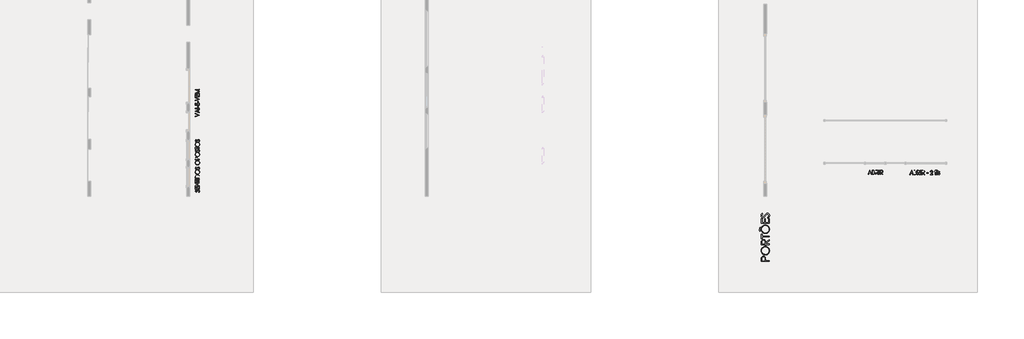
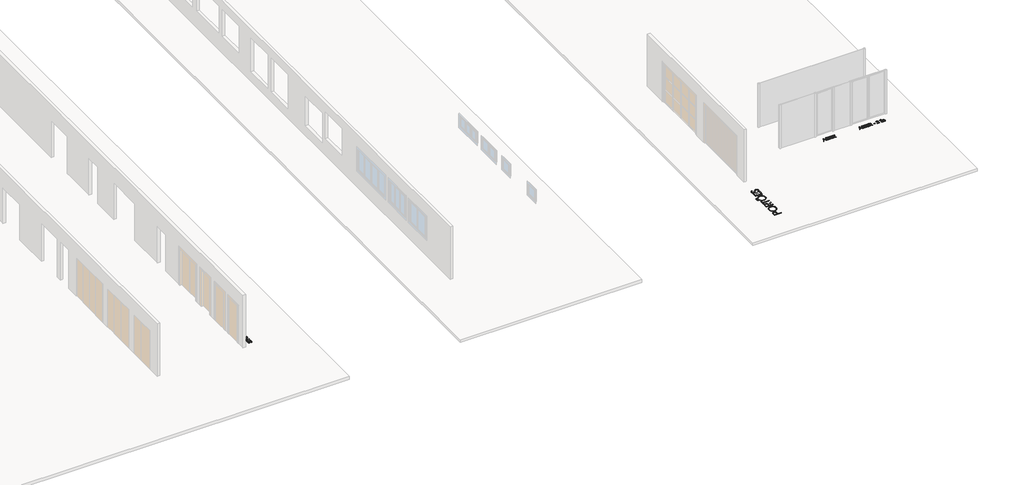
# One storey, part 12 of 15: 5 proxies.
"""IFC4 building model written with IfcOpenShell, lengths in millimetres."""

from ifc_helpers import new_model, si_unit, origin, origin_with_axes, place, context, project, spatial, polyline, outline, extrude, element, save

model = new_model("IFC4")

# Units and contexts
model_context = context("Model", 3, world=origin())
ifc_project = project(units=[si_unit("LENGTHUNIT", "METRE", prefix="MILLI")], contexts=[model_context])

# Site, building, storey
site = spatial("IfcSite", under=ifc_project)
building = spatial("IfcBuilding", under=site)
storey = spatial("IfcBuildingStorey", under=building, Name="TÉRREO", Elevation=0.0)

# Proxies
placement = place(None, origin())
element("IfcBuildingElementProxy", 1, Name="600mm Arial", ObjectType="600mm Arial", at=placement, inside=storey, context=model_context, shape_type="SweptSolid", body=[
    extrude(outline(polyline([(13627.4214669, -12239.1506678), (13617.7473598, -12223.043525), (13641.3187883, -12203.7689714), (13647.2116455, -12193.0820294), (13649.1759312, -12181.6953107), (13644.6089669, -12162.887275), (13632.3812883, -12149.481025), (13616.1268241, -12144.8649536), (13606.4158866, -12146.5468732), (13596.9259312, -12151.5926321), (13583.0040562, -12164.6551321), (13566.4795026, -12185.3783464), (13540.6000383, -12216.1194178), (13527.2060651, -12223.9642839), (13512.7562883, -12226.5792393), (13501.3941232, -12225.0691946), (13491.0754848, -12220.5390607), (13482.3221366, -12213.2712036), (13475.6558419, -12203.5479893), (13470.0330741, -12179.7801321), (13475.5821812, -12154.2689714), (13483.4638776, -12142.059708), (13496.0107526, -12129.1506678), (13507.7473598, -12144.6194178), (13490.0196812, -12163.574775), (13485.7473598, -12180.6640607), (13487.5090785, -12191.5044625), (13492.7942348, -12200.1595964), (13500.6697928, -12205.8314714), (13510.2027169, -12207.7220964), (13522.3321812, -12205.0703107), (13535.1491455, -12195.3962036), (13554.3991455, -12170.2042393), (13571.3472482, -12148.8426321), (13586.3433419, -12135.4363821), (13600.3941232, -12128.3649536), (13614.5062883, -12126.0078107), (13633.5107526, -12129.9977661), (13649.8634312, -12141.9676321), (13661.1335205, -12159.6584803), (13664.8902169, -12180.8113821), (13662.735641, -12197.5814714), (13656.2719133, -12212.731025), (13644.75015, -12226.5055786), (13627.4214669, -12239.1506678)])), origin_with_axes(), (0.0, 0.0, 1.0), 10.0),
    extrude(outline(polyline([(13473.1759312, -12088.293525), (13473.1759312, -11978.293525), (13488.8902169, -11978.293525), (13488.8902169, -12069.4363821), (13551.7473598, -12069.4363821), (13551.7473598, -11978.293525), (13567.4616455, -11978.293525), (13567.4616455, -12069.4363821), (13646.0330741, -12069.4363821), (13646.0330741, -11978.293525), (13661.7473598, -11978.293525), (13661.7473598, -12088.293525), (13473.1759312, -12088.293525)])), origin_with_axes(), (0.0, 0.0, 1.0), 10.0),
    extrude(outline(polyline([(13661.7473598, -11946.8649536), (13473.1759312, -11946.8649536), (13473.1759312, -11942.887275), (13618.1402169, -11814.8649536), (13473.1759312, -11814.8649536), (13473.1759312, -11796.0078107), (13661.7473598, -11796.0078107), (13661.7473598, -11800.2801321), (13517.0777169, -11928.0078107), (13661.7473598, -11928.0078107), (13661.7473598, -11946.8649536)])), origin_with_axes(), (0.0, 0.0, 1.0), 10.0),
    extrude(outline(polyline([(13488.8902169, -11770.8649536), (13473.1759312, -11770.8649536), (13473.1759312, -11670.293525), (13488.8902169, -11670.293525), (13488.8902169, -11711.1506678), (13661.7473598, -11711.1506678), (13661.7473598, -11730.0078107), (13488.8902169, -11730.0078107), (13488.8902169, -11770.8649536)])), origin_with_axes(), (0.0, 0.0, 1.0), 10.0),
    extrude(outline(polyline([(13473.1759312, -11642.0078107), (13473.1759312, -11623.1506678), (13661.7473598, -11623.1506678), (13661.7473598, -11642.0078107), (13473.1759312, -11642.0078107)])), origin_with_axes(), (0.0, 0.0, 1.0), 10.0),
    extrude(outline(polyline([(13661.7473598, -11579.1506678), (13473.1759312, -11579.1506678), (13473.1759312, -11539.7176321), (13474.8701276, -11502.8627214), (13479.9527169, -11477.7444178), (13493.1011544, -11453.0742169), (13513.2964669, -11434.4564714), (13539.2864223, -11422.762833), (13569.8187883, -11418.8649536), (13596.453275, -11421.9525652), (13619.6870919, -11431.2154), (13638.4030517, -11445.4135027), (13651.4839669, -11463.3069178), (13659.1815116, -11487.0011143), (13661.7473598, -11518.6015607), (13661.7473598, -11579.1506678)]), holes=[polyline([(13646.0330741, -11560.293525), (13646.0330741, -11538.3426321), (13644.7808419, -11504.9866053), (13641.0241455, -11483.6863821), (13631.0062883, -11464.55915), (13615.2920026, -11449.9988821), (13594.6670026, -11440.7912928), (13569.9170026, -11437.7220964), (13543.8226946, -11441.0491053), (13521.8165562, -11451.0301321), (13504.9912214, -11466.9531232), (13494.4393241, -11488.106025), (13490.2774937, -11511.7020071), (13488.8902169, -11546.8381678), (13488.8902169, -11560.293525), (13646.0330741, -11560.293525)])]), origin_with_axes(), (0.0, 0.0, 1.0), 10.0),
    extrude(outline(polyline([(13470.0330741, -11289.6640607), (13471.790189, -11269.1756399), (13477.0615339, -11250.4335919), (13485.8471087, -11233.4379167), (13498.1469133, -11218.1886143), (13513.0187046, -11205.6095127), (13529.5202392, -11196.6244402), (13547.6515171, -11191.2333966), (13567.4125383, -11189.4363821), (13586.9970808, -11191.2303274), (13605.0408866, -11196.6121634), (13621.5439558, -11205.5818899), (13636.5062883, -11218.1395071), (13648.9242571, -11233.2752493), (13657.7942348, -11249.9793509), (13663.1162214, -11268.2518118), (13664.8902169, -11288.0926321), (13663.1238944, -11308.1943341), (13657.8249267, -11326.6601544), (13648.993314, -11343.4900931), (13636.6290562, -11358.68415), (13621.7603341, -11371.2632515), (13605.4153285, -11380.2483241), (13587.5940395, -11385.6393676), (13568.2964669, -11387.4363821), (13542.5152169, -11384.1584803), (13518.6982526, -11374.324775), (13498.3433419, -11358.8376098), (13482.9482526, -11338.5993286), (13473.2618687, -11315.0585919), (13470.0330741, -11289.6640607)]), holes=[polyline([(13485.7473598, -11288.8292393), (13488.5096366, -11309.2946411), (13496.7964669, -11328.6551321), (13509.7607526, -11345.4006678), (13526.5553955, -11358.0212036), (13546.3332973, -11365.9397303), (13568.2473598, -11368.5792393), (13599.6329625, -11362.7354893), (13625.7272705, -11345.2042393), (13643.313766, -11319.4229893), (13649.1759312, -11288.8292393), (13646.4811767, -11267.6088152), (13638.3969133, -11248.0457571), (13625.6351946, -11231.3677437), (13608.9080741, -11218.8024536), (13589.1547258, -11210.9207571), (13567.3143241, -11208.293525), (13545.6703508, -11210.9207571), (13526.2116455, -11218.8024536), (13509.6748151, -11231.4475428), (13496.7964669, -11248.3649536), (13488.5096366, -11268.0078107), (13485.7473598, -11288.8292393)])]), origin_with_axes(), (0.0, 0.0, 1.0), 10.0),
    extrude(outline(polyline([(13627.4214669, -11170.5792393), (13617.7473598, -11154.4720964), (13641.3187883, -11135.1975428), (13647.2116455, -11124.5106009), (13649.1759312, -11113.1238821), (13644.6089669, -11094.3158464), (13632.3812883, -11080.9095964), (13616.1268241, -11076.293525), (13606.4158866, -11077.9754446), (13596.9259312, -11083.0212036), (13583.0040562, -11096.0837036), (13566.4795026, -11116.8069178), (13540.6000383, -11147.5479893), (13527.2060651, -11155.3928553), (13512.7562883, -11158.0078107), (13501.3941232, -11156.4977661), (13491.0754848, -11151.9676321), (13482.3221366, -11144.699775), (13475.6558419, -11134.9765607), (13470.0330741, -11111.2087036), (13475.5821812, -11085.6975428), (13483.4638776, -11073.4882794), (13496.0107526, -11060.5792393), (13507.7473598, -11076.0479893), (13490.0196812, -11095.0033464), (13485.7473598, -11112.0926321), (13487.5090785, -11122.9330339), (13492.7942348, -11131.5881678), (13500.6697928, -11137.2600428), (13510.2027169, -11139.1506678), (13522.3321812, -11136.4988821), (13535.1491455, -11126.824775), (13554.3991455, -11101.6328107), (13571.3472482, -11080.2712036), (13586.3433419, -11066.8649536), (13600.3941232, -11059.793525), (13614.5062883, -11057.4363821), (13633.5107526, -11061.4263375), (13649.8634312, -11073.3962036), (13661.1335205, -11091.0870518), (13664.8902169, -11112.2399536), (13662.735641, -11129.0100428), (13656.2719133, -11144.1595964), (13644.75015, -11157.93415), (13627.4214669, -11170.5792393)])), origin_with_axes(), (0.0, 0.0, 1.0), 10.0),
    extrude(outline(polyline([(13470.0330741, -10855.949775), (13471.790189, -10835.4613542), (13477.0615339, -10816.7193062), (13485.8471087, -10799.723631), (13498.1469133, -10784.4743286), (13513.0187046, -10771.895227), (13529.5202392, -10762.9101544), (13547.6515171, -10757.5191109), (13567.4125383, -10755.7220964), (13586.9970808, -10757.5160417), (13605.0408866, -10762.8978777), (13621.5439558, -10771.8676042), (13636.5062883, -10784.4252214), (13648.9242571, -10799.5609636), (13657.7942348, -10816.2650652), (13663.1162214, -10834.5375261), (13664.8902169, -10854.3783464), (13663.1238944, -10874.4800484), (13657.8249267, -10892.9458687), (13648.993314, -10909.7758073), (13636.6290562, -10924.9698643), (13621.7603341, -10937.5489658), (13605.4153285, -10946.5340384), (13587.5940395, -10951.9250819), (13568.2964669, -10953.7220964), (13542.5152169, -10950.4441946), (13518.6982526, -10940.6104893), (13498.3433419, -10925.1233241), (13482.9482526, -10904.8850428), (13473.2618687, -10881.3443062), (13470.0330741, -10855.949775)]), holes=[polyline([(13485.7473598, -10855.1149536), (13488.5096366, -10875.5803553), (13496.7964669, -10894.9408464), (13509.7607526, -10911.6863821), (13526.5553955, -10924.3069178), (13546.3332973, -10932.2254446), (13568.2473598, -10934.8649536), (13599.6329625, -10929.0212036), (13625.7272705, -10911.4899536), (13643.313766, -10885.7087036), (13649.1759312, -10855.1149536), (13646.4811767, -10833.8945294), (13638.3969133, -10814.3314714), (13625.6351946, -10797.653458), (13608.9080741, -10785.0881678), (13589.1547258, -10777.2064714), (13567.3143241, -10774.5792393), (13545.6703508, -10777.2064714), (13526.2116455, -10785.0881678), (13509.6748151, -10797.7332571), (13496.7964669, -10814.6506678), (13488.5096366, -10834.293525), (13485.7473598, -10855.1149536)])]), origin_with_axes(), (0.0, 0.0, 1.0), 10.0),
    extrude(outline(polyline([(13473.1759312, -10718.0078107), (13473.1759312, -10679.949775), (13475.8768241, -10635.7533464), (13481.7696812, -10620.8554669), (13491.6893241, -10608.9654), (13505.156958, -10601.1757794), (13521.6937883, -10598.5792393), (13538.3104178, -10601.1205339), (13551.7228062, -10608.7444178), (13561.5994803, -10620.824775), (13567.6089669, -10636.7354893), (13570.6045026, -10685.449775), (13570.6045026, -10699.1506678), (13661.7473598, -10699.1506678), (13661.7473598, -10718.0078107), (13473.1759312, -10718.0078107)]), holes=[polyline([(13488.8902169, -10699.1506678), (13554.8902169, -10699.1506678), (13555.2339669, -10666.3470964), (13551.6000383, -10637.2020071), (13539.8634312, -10622.7154), (13521.7428955, -10617.4363821), (13503.8678955, -10622.7154), (13492.3277169, -10636.6127214), (13488.8902169, -10664.8738821), (13488.8902169, -10699.1506678)])]), origin_with_axes(), (0.0, 0.0, 1.0), 10.0),
    extrude(outline(polyline([(13470.0330741, -10469.3783464), (13471.790189, -10448.8899257), (13477.0615339, -10430.1478777), (13485.8471087, -10413.1522024), (13498.1469133, -10397.9029), (13513.0187046, -10385.3237984), (13529.5202392, -10376.3387259), (13547.6515171, -10370.9476823), (13567.4125383, -10369.1506678), (13586.9970808, -10370.9446132), (13605.0408866, -10376.3264491), (13621.5439558, -10385.2961757), (13636.5062883, -10397.8537928), (13648.9242571, -10412.989535), (13657.7942348, -10429.6936366), (13663.1162214, -10447.9660975), (13664.8902169, -10467.8069178), (13663.1238944, -10487.9086198), (13657.8249267, -10506.3744402), (13648.993314, -10523.2043788), (13636.6290562, -10538.3984357), (13621.7603341, -10550.9775373), (13605.4153285, -10559.9626098), (13587.5940395, -10565.3536533), (13568.2964669, -10567.1506678), (13542.5152169, -10563.8727661), (13518.6982526, -10554.0390607), (13498.3433419, -10538.5518955), (13482.9482526, -10518.3136143), (13473.2618687, -10494.7728777), (13470.0330741, -10469.3783464)]), holes=[polyline([(13485.7473598, -10468.543525), (13488.5096366, -10489.0089268), (13496.7964669, -10508.3694178), (13509.7607526, -10525.1149536), (13526.5553955, -10537.7354893), (13546.3332973, -10545.6540161), (13568.2473598, -10548.293525), (13599.6329625, -10542.449775), (13625.7272705, -10524.918525), (13643.313766, -10499.137275), (13649.1759312, -10468.543525), (13646.4811767, -10447.3231009), (13638.3969133, -10427.7600428), (13625.6351946, -10411.0820294), (13608.9080741, -10398.5167393), (13589.1547258, -10390.6350428), (13567.3143241, -10388.0078107), (13545.6703508, -10390.6350428), (13526.2116455, -10398.5167393), (13509.6748151, -10411.1618286), (13496.7964669, -10428.0792393), (13488.5096366, -10447.7220964), (13485.7473598, -10468.543525)])]), origin_with_axes(), (0.0, 0.0, 1.0), 10.0),
    extrude(outline(polyline([(13627.4214669, -10350.293525), (13617.7473598, -10334.1863821), (13641.3187883, -10314.9118286), (13647.2116455, -10304.2248866), (13649.1759312, -10292.8381678), (13644.6089669, -10274.0301321), (13632.3812883, -10260.6238821), (13616.1268241, -10256.0078107), (13606.4158866, -10257.6897303), (13596.9259312, -10262.7354893), (13583.0040562, -10275.7979893), (13566.4795026, -10296.5212036), (13540.6000383, -10327.262275), (13527.2060651, -10335.1071411), (13512.7562883, -10337.7220964), (13501.3941232, -10336.2120518), (13491.0754848, -10331.6819178), (13482.3221366, -10324.4140607), (13475.6558419, -10314.6908464), (13470.0330741, -10290.9229893), (13475.5821812, -10265.4118286), (13483.4638776, -10253.2025652), (13496.0107526, -10240.293525), (13507.7473598, -10255.762275), (13490.0196812, -10274.7176321), (13485.7473598, -10291.8069178), (13487.5090785, -10302.6473196), (13492.7942348, -10311.3024536), (13500.6697928, -10316.9743286), (13510.2027169, -10318.8649536), (13522.3321812, -10316.2131678), (13535.1491455, -10306.5390607), (13554.3991455, -10281.3470964), (13571.3472482, -10259.9854893), (13586.3433419, -10246.5792393), (13600.3941232, -10239.5078107), (13614.5062883, -10237.1506678), (13633.5107526, -10241.1406232), (13649.8634312, -10253.1104893), (13661.1335205, -10270.8013375), (13664.8902169, -10291.9542393), (13662.735641, -10308.7243286), (13656.2719133, -10323.8738821), (13644.75015, -10337.6484357), (13627.4214669, -10350.293525)])), origin_with_axes(), (0.0, 0.0, 1.0), 10.0),
    extrude(outline(polyline([(13488.8902169, -10218.293525), (13473.1759312, -10218.293525), (13473.1759312, -10117.7220964), (13488.8902169, -10117.7220964), (13488.8902169, -10158.5792393), (13661.7473598, -10158.5792393), (13661.7473598, -10177.4363821), (13488.8902169, -10177.4363821), (13488.8902169, -10218.293525)])), origin_with_axes(), (0.0, 0.0, 1.0), 10.0),
    extrude(outline(polyline([(13470.0330741, -9997.949775), (13471.790189, -9977.4613542), (13477.0615339, -9958.7193062), (13485.8471087, -9941.723631), (13498.1469133, -9926.4743286), (13513.0187046, -9913.895227), (13529.5202392, -9904.9101544), (13547.6515171, -9899.5191109), (13567.4125383, -9897.7220964), (13586.9970808, -9899.5160417), (13605.0408866, -9904.8978777), (13621.5439558, -9913.8676042), (13636.5062883, -9926.4252214), (13648.9242571, -9941.5609636), (13657.7942348, -9958.2650652), (13663.1162214, -9976.5375261), (13664.8902169, -9996.3783464), (13663.1238944, -10016.4800484), (13657.8249267, -10034.9458687), (13648.993314, -10051.7758073), (13636.6290562, -10066.9698643), (13621.7603341, -10079.5489658), (13605.4153285, -10088.5340384), (13587.5940395, -10093.9250819), (13568.2964669, -10095.7220964), (13542.5152169, -10092.4441946), (13518.6982526, -10082.6104893), (13498.3433419, -10067.1233241), (13482.9482526, -10046.8850428), (13473.2618687, -10023.3443062), (13470.0330741, -9997.949775)]), holes=[polyline([(13485.7473598, -9997.1149536), (13488.5096366, -10017.5803553), (13496.7964669, -10036.9408464), (13509.7607526, -10053.6863821), (13526.5553955, -10066.3069178), (13546.3332973, -10074.2254446), (13568.2473598, -10076.8649536), (13599.6329625, -10071.0212036), (13625.7272705, -10053.4899536), (13643.313766, -10027.7087036), (13649.1759312, -9997.1149536), (13646.4811767, -9975.8945294), (13638.3969133, -9956.3314714), (13625.6351946, -9939.653458), (13608.9080741, -9927.0881678), (13589.1547258, -9919.2064714), (13567.3143241, -9916.5792393), (13545.6703508, -9919.2064714), (13526.2116455, -9927.0881678), (13509.6748151, -9939.7332571), (13496.7964669, -9956.6506678), (13488.5096366, -9976.293525), (13485.7473598, -9997.1149536)])]), origin_with_axes(), (0.0, 0.0, 1.0), 10.0),
    extrude(outline(polyline([(13627.4214669, -9878.8649536), (13617.7473598, -9862.7578107), (13641.3187883, -9843.4832571), (13647.2116455, -9832.7963152), (13649.1759312, -9821.4095964), (13644.6089669, -9802.6015607), (13632.3812883, -9789.1953107), (13616.1268241, -9784.5792393), (13606.4158866, -9786.2611589), (13596.9259312, -9791.3069178), (13583.0040562, -9804.3694178), (13566.4795026, -9825.0926321), (13540.6000383, -9855.8337036), (13527.2060651, -9863.6785696), (13512.7562883, -9866.293525), (13501.3941232, -9864.7834803), (13491.0754848, -9860.2533464), (13482.3221366, -9852.9854893), (13475.6558419, -9843.262275), (13470.0330741, -9819.4944178), (13475.5821812, -9793.9832571), (13483.4638776, -9781.7739937), (13496.0107526, -9768.8649536), (13507.7473598, -9784.3337036), (13490.0196812, -9803.2890607), (13485.7473598, -9820.3783464), (13487.5090785, -9831.2187482), (13492.7942348, -9839.8738821), (13500.6697928, -9845.5457571), (13510.2027169, -9847.4363821), (13522.3321812, -9844.7845964), (13535.1491455, -9835.1104893), (13554.3991455, -9809.918525), (13571.3472482, -9788.5569178), (13586.3433419, -9775.1506678), (13600.3941232, -9768.0792393), (13614.5062883, -9765.7220964), (13633.5107526, -9769.7120518), (13649.8634312, -9781.6819178), (13661.1335205, -9799.3727661), (13664.8902169, -9820.5256678), (13662.735641, -9837.2957571), (13656.2719133, -9852.4453107), (13644.75015, -9866.2198643), (13627.4214669, -9878.8649536)])), origin_with_axes(), (0.0, 0.0, 1.0), 10.0),
])
element("IfcBuildingElementProxy", 2, Name="600mm Arial", ObjectType="600mm Arial", at=placement, inside=storey, context=model_context, shape_type="SweptSolid", body=[
    extrude(outline(polyline([(13473.1759312, -8704.8532181), (13473.1759312, -8684.6210752), (13618.6803955, -8621.5675038), (13473.1759312, -8558.5139324), (13473.1759312, -8538.2817895), (13661.7473598, -8619.9960752), (13661.7473598, -8623.1389324), (13473.1759312, -8704.8532181)])), origin_with_axes(), (0.0, 0.0, 1.0), 10.0),
    extrude(outline(polyline([(13473.1759312, -8434.5675038), (13661.7473598, -8352.8532181), (13661.7473598, -8373.0853609), (13595.7473598, -8401.7148252), (13595.7473598, -8470.6121467), (13661.7473598, -8499.1925038), (13661.7473598, -8519.4246467), (13473.1759312, -8437.7103609), (13473.1759312, -8434.5675038)]), holes=[polyline([(13516.1937883, -8436.1880395), (13580.0330741, -8463.8353609), (13580.0330741, -8408.4916109), (13516.1937883, -8436.1880395)])]), origin_with_axes(), (0.0, 0.0, 1.0), 10.0),
    extrude(outline(polyline([(13473.1759312, -8321.4246467), (13473.1759312, -8302.5675038), (13661.7473598, -8302.5675038), (13661.7473598, -8321.4246467), (13473.1759312, -8321.4246467)])), origin_with_axes(), (0.0, 0.0, 1.0), 10.0),
    extrude(outline(polyline([(13583.1759312, -8274.2817895), (13583.1759312, -8201.9960752), (13598.8902169, -8201.9960752), (13598.8902169, -8274.2817895), (13583.1759312, -8274.2817895)])), origin_with_axes(), (0.0, 0.0, 1.0), 10.0),
    extrude(outline(polyline([(13473.1759312, -8170.5675038), (13473.1759312, -8060.5675038), (13488.8902169, -8060.5675038), (13488.8902169, -8151.7103609), (13551.7473598, -8151.7103609), (13551.7473598, -8060.5675038), (13567.4616455, -8060.5675038), (13567.4616455, -8151.7103609), (13646.0330741, -8151.7103609), (13646.0330741, -8060.5675038), (13661.7473598, -8060.5675038), (13661.7473598, -8170.5675038), (13473.1759312, -8170.5675038)])), origin_with_axes(), (0.0, 0.0, 1.0), 10.0),
    extrude(outline(polyline([(13583.1759312, -8044.8532181), (13583.1759312, -7972.5675038), (13598.8902169, -7972.5675038), (13598.8902169, -8044.8532181), (13583.1759312, -8044.8532181)])), origin_with_axes(), (0.0, 0.0, 1.0), 10.0),
    extrude(outline(polyline([(13473.1759312, -7953.7103609), (13473.1759312, -7933.4782181), (13618.6803955, -7870.4246467), (13473.1759312, -7807.3710752), (13473.1759312, -7787.1389324), (13661.7473598, -7868.8532181), (13661.7473598, -7871.9960752), (13473.1759312, -7953.7103609)])), origin_with_axes(), (0.0, 0.0, 1.0), 10.0),
    extrude(outline(polyline([(13473.1759312, -7755.7103609), (13473.1759312, -7645.7103609), (13488.8902169, -7645.7103609), (13488.8902169, -7736.8532181), (13551.7473598, -7736.8532181), (13551.7473598, -7645.7103609), (13567.4616455, -7645.7103609), (13567.4616455, -7736.8532181), (13646.0330741, -7736.8532181), (13646.0330741, -7645.7103609), (13661.7473598, -7645.7103609), (13661.7473598, -7755.7103609), (13473.1759312, -7755.7103609)])), origin_with_axes(), (0.0, 0.0, 1.0), 10.0),
    extrude(outline(polyline([(13661.7473598, -7620.5675038), (13473.1759312, -7596.6523252), (13473.1759312, -7590.1701824), (13627.1759312, -7515.2817895), (13473.1759312, -7440.8353609), (13473.1759312, -7434.0094681), (13661.7473598, -7409.9960752), (13661.7473598, -7428.9023252), (13526.6045026, -7446.1389324), (13661.7473598, -7511.5005395), (13661.7473598, -7518.7192895), (13526.6045026, -7584.4246467), (13661.7473598, -7601.5630395), (13661.7473598, -7620.5675038)])), origin_with_axes(), (0.0, 0.0, 1.0), 10.0),
])
element("IfcBuildingElementProxy", 3, Name="600mm Arial", ObjectType="600mm Arial", at=placement, inside=storey, context=model_context, shape_type="SweptSolid", body=[
    extrude(outline(polyline([(47033.0740731, -11217.7852617), (47114.7883588, -11406.3566902), (47094.5562159, -11406.3566902), (47065.9267516, -11340.3566902), (46997.0294302, -11340.3566902), (46968.4490731, -11406.3566902), (46948.2169302, -11406.3566902), (47029.9312159, -11217.7852617), (47033.0740731, -11217.7852617)]), holes=[polyline([(47031.4535374, -11260.8031188), (47003.8062159, -11324.6424045), (47059.1499659, -11324.6424045), (47031.4535374, -11260.8031188)])]), origin_with_axes(), (0.0, 0.0, 1.0), 10.0),
    extrude(outline(polyline([(47146.2169302, -11217.7852617), (47183.2928231, -11217.7852617), (47203.08914, -11219.0927393), (47217.6923766, -11223.0151724), (47228.4407025, -11229.6446367), (47236.6722874, -11239.0732081), (47241.9021981, -11250.509034), (47243.6455016, -11263.1602617), (47237.6789838, -11285.6513331), (47230.3190507, -11294.8466456), (47220.1722874, -11302.102226), (47242.6879124, -11313.9861545), (47254.9646981, -11330.5107081), (47259.3597874, -11351.5040117), (47255.2040954, -11372.7244358), (47242.7370195, -11390.4214224), (47223.2721757, -11402.3728733), (47198.1231802, -11406.3566902), (47146.2169302, -11406.3566902), (47146.2169302, -11217.7852617)]), holes=[polyline([(47165.0740731, -11312.070976), (47165.0740731, -11390.6424045), (47188.5963945, -11390.6424045), (47219.0673766, -11386.2473152), (47234.6343409, -11372.5218688), (47240.5026445, -11352.3388331), (47238.4217293, -11339.5586992), (47232.1789838, -11328.5218688), (47222.2900329, -11319.9526724), (47209.2705016, -11314.5754402), (47175.7303231, -11312.070976), (47165.0740731, -11312.070976)]), polyline([(47165.0740731, -11233.4995474), (47165.0740731, -11296.3566902), (47175.8776445, -11296.3566902), (47204.7526445, -11292.5508867), (47219.3865731, -11280.5441902), (47224.7883588, -11262.3254402), (47222.5232918, -11250.3126054), (47215.7280909, -11241.1848152), (47203.9976222, -11235.4208643), (47186.9267516, -11233.4995474), (47165.0740731, -11233.4995474)])]), origin_with_axes(), (0.0, 0.0, 1.0), 10.0),
    extrude(outline(polyline([(47297.0740731, -11217.7852617), (47335.1321088, -11217.7852617), (47378.1990731, -11220.2406188), (47393.6064391, -11226.0905072), (47405.8463945, -11236.1758867), (47413.838582, -11249.7847036), (47416.5026445, -11266.2049045), (47414.667265, -11280.1451947), (47409.1611266, -11292.305351), (47400.2481802, -11302.1943018), (47388.1923766, -11309.320976), (47371.9686043, -11313.6669581), (47350.5517516, -11315.2138331), (47419.6455016, -11406.3566902), (47396.7615731, -11406.3566902), (47327.6678231, -11315.2138331), (47315.9312159, -11315.2138331), (47315.9312159, -11406.3566902), (47297.0740731, -11406.3566902), (47297.0740731, -11217.7852617)]), holes=[polyline([(47315.9312159, -11233.4995474), (47315.9312159, -11299.4995474), (47349.2749659, -11299.695976), (47377.9535374, -11296.0129402), (47392.4401445, -11284.2026724), (47397.6455016, -11266.0575831), (47392.3664838, -11248.3544581), (47378.5182695, -11236.9370474), (47350.0606802, -11233.4995474), (47315.9312159, -11233.4995474)])]), origin_with_axes(), (0.0, 0.0, 1.0), 10.0),
    extrude(outline(polyline([(47457.3597874, -11217.7852617), (47476.2169302, -11217.7852617), (47476.2169302, -11406.3566902), (47457.3597874, -11406.3566902), (47457.3597874, -11217.7852617)])), origin_with_axes(), (0.0, 0.0, 1.0), 10.0),
    extrude(outline(polyline([(47520.2169302, -11217.7852617), (47558.2749659, -11217.7852617), (47601.3419302, -11220.2406188), (47616.7492963, -11226.0905072), (47628.9892516, -11236.1758867), (47636.9814391, -11249.7847036), (47639.6455016, -11266.2049045), (47637.8101222, -11280.1451947), (47632.3039838, -11292.305351), (47623.3910374, -11302.1943018), (47611.3352338, -11309.320976), (47595.1114615, -11313.6669581), (47573.6946088, -11315.2138331), (47642.7883588, -11406.3566902), (47619.9044302, -11406.3566902), (47550.8106802, -11315.2138331), (47539.0740731, -11315.2138331), (47539.0740731, -11406.3566902), (47520.2169302, -11406.3566902), (47520.2169302, -11217.7852617)]), holes=[polyline([(47539.0740731, -11233.4995474), (47539.0740731, -11299.4995474), (47572.4178231, -11299.695976), (47601.0963945, -11296.0129402), (47615.5830016, -11284.2026724), (47620.7883588, -11266.0575831), (47615.5093409, -11248.3544581), (47601.6611266, -11236.9370474), (47573.2035374, -11233.4995474), (47539.0740731, -11233.4995474)])]), origin_with_axes(), (0.0, 0.0, 1.0), 10.0),
    extrude(outline(polyline([(47737.0740731, -11327.7852617), (47809.3597874, -11327.7852617), (47809.3597874, -11343.4995474), (47737.0740731, -11343.4995474), (47737.0740731, -11327.7852617)])), origin_with_axes(), (0.0, 0.0, 1.0), 10.0),
    extrude(outline(polyline([(47925.6455016, -11274.3566902), (47906.7883588, -11274.3566902), (47911.7543186, -11250.5642795), (47925.1789838, -11231.4370474), (47944.90164, -11218.8410652), (47968.7615731, -11214.6424045), (47991.99539, -11218.8349268), (48010.3307695, -11231.4124938), (48022.24539, -11249.6864893), (48026.2169302, -11270.9682974), (48024.2833365, -11286.4800161), (48018.4825552, -11300.9973152), (47988.4535374, -11338.9325831), (47939.8865731, -11390.6424045), (48029.3597874, -11390.6424045), (48029.3597874, -11406.3566902), (47900.5026445, -11406.3566902), (47972.3463945, -11329.8477617), (48000.7794302, -11294.367851), (48005.7146981, -11282.4900608), (48007.3597874, -11269.9861545), (48004.4992963, -11254.9041233), (47995.9178231, -11242.0687438), (47983.1867963, -11233.2847036), (47967.8776445, -11230.3566902), (47951.8748543, -11233.2478733), (47938.8307695, -11241.9214224), (47929.7520865, -11255.8126054), (47925.6455016, -11274.3566902)])), origin_with_axes(), (0.0, 0.0, 1.0), 10.0),
    extrude(outline(polyline([(48186.5026445, -11211.9415117), (48186.5026445, -11228.3432974), (48171.0830016, -11224.070976), (48163.1521981, -11226.2071367), (48159.1745195, -11231.117851), (48158.3642516, -11245.9236545), (48158.3642516, -11264.9281188), (48186.5026445, -11264.9281188), (48186.5026445, -11280.6424045), (48158.3151445, -11280.6424045), (48158.3151445, -11406.3566902), (48139.3597874, -11406.3566902), (48139.3597874, -11280.6424045), (48120.5026445, -11280.6424045), (48120.5026445, -11264.9281188), (48139.3597874, -11264.9281188), (48139.3597874, -11243.4682974), (48142.0115731, -11222.3767795), (48151.0227338, -11212.211601), (48166.3687159, -11208.3566902), (48186.5026445, -11211.9415117)])), origin_with_axes(), (0.0, 0.0, 1.0), 10.0),
    extrude(outline(polyline([(48211.6455016, -11211.4995474), (48230.5026445, -11211.4995474), (48230.5026445, -11406.3566902), (48211.6455016, -11406.3566902), (48211.6455016, -11211.4995474)])), origin_with_axes(), (0.0, 0.0, 1.0), 10.0),
    extrude(outline(polyline([(48343.6455016, -11281.2316902), (48332.0562159, -11293.2138331), (48318.1711713, -11281.4281188), (48304.6053231, -11277.4995474), (48296.7113499, -11278.9850385), (48290.0205016, -11283.4415117), (48285.4535374, -11289.8745474), (48283.9312159, -11297.289726), (48288.9401445, -11310.6468688), (48310.0562159, -11325.8700831), (48326.5439391, -11336.3176277), (48336.7213945, -11346.2495474), (48341.9144749, -11356.6357081), (48343.6455016, -11368.2495474), (48340.5763052, -11384.2093688), (48331.3687159, -11397.5174045), (48317.557332, -11406.5040117), (48300.6767516, -11409.4995474), (48277.2526445, -11404.5642795), (48258.7883588, -11390.9370474), (48270.1321088, -11378.070976), (48284.1890284, -11389.8566902), (48299.0562159, -11393.7852617), (48308.963582, -11391.992851), (48317.2749659, -11386.6156188), (48322.9100106, -11378.8075831), (48324.7883588, -11369.7227617), (48319.8285374, -11355.4816902), (48297.3374659, -11340.0620474), (48281.5863499, -11330.3142795), (48271.8508588, -11320.7138331), (48266.7682695, -11310.4995474), (48265.0740731, -11298.9102617), (48267.8424882, -11284.2947483), (48276.1477338, -11272.367851), (48288.6761936, -11264.430909), (48304.1142516, -11261.7852617), (48323.8184927, -11266.6468688), (48343.6455016, -11281.2316902)])), origin_with_axes(), (0.0, 0.0, 1.0), 10.0),
])
element("IfcBuildingElementProxy", 4, Name="600mm Arial", ObjectType="600mm Arial", at=placement, inside=storey, context=model_context, shape_type="SweptSolid", body=[
    extrude(outline(polyline([(45079.7311934, -11207.9945058), (45161.4454791, -11396.5659344), (45141.2133362, -11396.5659344), (45112.5838719, -11330.5659344), (45043.6865505, -11330.5659344), (45015.1061934, -11396.5659344), (44994.8740505, -11396.5659344), (45076.5883362, -11207.9945058), (45079.7311934, -11207.9945058)]), holes=[polyline([(45078.1106576, -11251.012363), (45050.4633362, -11314.8516487), (45105.8070862, -11314.8516487), (45078.1106576, -11251.012363)])]), origin_with_axes(), (0.0, 0.0, 1.0), 10.0),
    extrude(outline(polyline([(45192.8740505, -11207.9945058), (45229.9499434, -11207.9945058), (45249.7462603, -11209.3019835), (45264.3494969, -11213.2244165), (45275.0978228, -11219.8538808), (45283.3294076, -11229.2824523), (45288.5593184, -11240.7182782), (45290.3026219, -11253.3695058), (45284.3361041, -11275.8605773), (45276.976171, -11285.0558898), (45266.8294076, -11292.3114701), (45289.3450326, -11304.1953987), (45301.6218184, -11320.7199523), (45306.0169076, -11341.7132558), (45301.8612157, -11362.9336799), (45289.3941398, -11380.6306665), (45269.929296, -11392.5821174), (45244.7803005, -11396.5659344), (45192.8740505, -11396.5659344), (45192.8740505, -11207.9945058)]), holes=[polyline([(45211.7311934, -11302.2802201), (45211.7311934, -11380.8516487), (45235.2535148, -11380.8516487), (45265.7244969, -11376.4565594), (45281.2914612, -11362.731113), (45287.1597648, -11342.5480773), (45285.0788496, -11329.7679433), (45278.8361041, -11318.731113), (45268.9471532, -11310.1619165), (45255.9276219, -11304.7846844), (45222.3874434, -11302.2802201), (45211.7311934, -11302.2802201)]), polyline([(45211.7311934, -11223.7087915), (45211.7311934, -11286.5659344), (45222.5347648, -11286.5659344), (45251.4097648, -11282.7601308), (45266.0436934, -11270.7534344), (45271.4454791, -11252.5346844), (45269.1804121, -11240.5218496), (45262.3852112, -11231.3940594), (45250.6547425, -11225.6301085), (45233.5838719, -11223.7087915), (45211.7311934, -11223.7087915)])]), origin_with_axes(), (0.0, 0.0, 1.0), 10.0),
    extrude(outline(polyline([(45343.7311934, -11207.9945058), (45381.7892291, -11207.9945058), (45424.8561934, -11210.449863), (45440.2635594, -11216.2997514), (45452.5035148, -11226.3851308), (45460.4957023, -11239.9939478), (45463.1597648, -11256.4141487), (45461.3243853, -11270.3544389), (45455.8182469, -11282.5145951), (45446.9053005, -11292.403546), (45434.8494969, -11299.5302201), (45418.6257246, -11303.8762023), (45397.2088719, -11305.4230773), (45466.3026219, -11396.5659344), (45443.4186934, -11396.5659344), (45374.3249434, -11305.4230773), (45362.5883362, -11305.4230773), (45362.5883362, -11396.5659344), (45343.7311934, -11396.5659344), (45343.7311934, -11207.9945058)]), holes=[polyline([(45362.5883362, -11223.7087915), (45362.5883362, -11289.7087915), (45395.9320862, -11289.9052201), (45424.6106576, -11286.2221844), (45439.0972648, -11274.4119165), (45444.3026219, -11256.2668273), (45439.0236041, -11238.5637023), (45425.1753898, -11227.1462915), (45396.7178005, -11223.7087915), (45362.5883362, -11223.7087915)])]), origin_with_axes(), (0.0, 0.0, 1.0), 10.0),
    extrude(outline(polyline([(45504.0169076, -11207.9945058), (45522.8740505, -11207.9945058), (45522.8740505, -11396.5659344), (45504.0169076, -11396.5659344), (45504.0169076, -11207.9945058)])), origin_with_axes(), (0.0, 0.0, 1.0), 10.0),
    extrude(outline(polyline([(45566.8740505, -11207.9945058), (45604.9320862, -11207.9945058), (45647.9990505, -11210.449863), (45663.4064166, -11216.2997514), (45675.6463719, -11226.3851308), (45683.6385594, -11239.9939478), (45686.3026219, -11256.4141487), (45684.4672425, -11270.3544389), (45678.9611041, -11282.5145951), (45670.0481576, -11292.403546), (45657.9923541, -11299.5302201), (45641.7685817, -11303.8762023), (45620.3517291, -11305.4230773), (45689.4454791, -11396.5659344), (45666.5615505, -11396.5659344), (45597.4678005, -11305.4230773), (45585.7311934, -11305.4230773), (45585.7311934, -11396.5659344), (45566.8740505, -11396.5659344), (45566.8740505, -11207.9945058)]), holes=[polyline([(45585.7311934, -11223.7087915), (45585.7311934, -11289.7087915), (45619.0749434, -11289.9052201), (45647.7535148, -11286.2221844), (45662.2401219, -11274.4119165), (45667.4454791, -11256.2668273), (45662.1664612, -11238.5637023), (45648.3182469, -11227.1462915), (45619.8606576, -11223.7087915), (45585.7311934, -11223.7087915)])]), origin_with_axes(), (0.0, 0.0, 1.0), 10.0),
])
element("IfcBuildingElementProxy", 5, Name="600mm Arial 2", ObjectType="600mm Arial 2", at=placement, inside=storey, context=model_context, shape_type="SweptSolid", body=[
    extrude(outline(polyline([(39990.6907312, -15475.6142881), (39990.6907312, -15399.1738584), (39992.0469323, -15344.0874327), (39996.1155358, -15310.4043272), (40007.9514733, -15280.4815977), (40027.8753015, -15256.600128), (40054.9253503, -15240.9544981), (40088.1399499, -15235.7392881), (40121.5148278, -15240.8435362), (40148.4539148, -15256.1562803), (40168.2914392, -15280.4199522), (40180.3616296, -15312.3769834), (40184.8740808, -15349.956085), (40186.3782312, -15410.2207334), (40186.3782312, -15437.7392881), (40369.4407312, -15437.7392881), (40369.4407312, -15475.6142881), (39990.6907312, -15475.6142881)]), holes=[polyline([(40022.2532312, -15437.7392881), (40154.8157312, -15437.7392881), (40155.5061608, -15371.8525694), (40153.6814538, -15337.1954649), (40148.2073327, -15313.3139952), (40138.6646081, -15296.7929991), (40124.6340905, -15284.2173155), (40107.3980065, -15276.265045), (40088.2385827, -15273.6142881), (40069.4490319, -15276.265045), (40052.336239, -15284.2173155), (40038.4043542, -15296.4971006), (40029.157528, -15312.1304014), (40023.9793054, -15334.9762266), (40022.2532312, -15368.893585), (40022.2532312, -15437.7392881)])]), origin_with_axes(), (0.0, 0.0, 1.0), 10.0),
    extrude(outline(polyline([(39984.3782312, -14976.2363584), (39987.9074365, -14935.0848997), (39998.4950524, -14897.4410703), (40016.1410791, -14863.3048704), (40040.8455163, -14832.6762998), (40070.7158471, -14807.4108885), (40103.8595544, -14789.3641661), (40140.2766381, -14778.5361326), (40179.9670983, -14774.9267881), (40219.3030969, -14778.5299681), (40255.5444909, -14789.3395078), (40288.6912805, -14807.3554075), (40318.7434655, -14832.577667), (40343.685238, -14862.9781492), (40361.5007898, -14896.5287168), (40372.1901208, -14933.2293699), (40375.7532312, -14973.0801084), (40372.2055322, -15013.4548338), (40361.5624353, -15050.5438536), (40343.8239404, -15084.3471678), (40318.9900476, -15114.8647764), (40289.1258813, -15140.1301878), (40256.2965661, -15158.1769102), (40220.502102, -15169.0049436), (40181.742489, -15172.6142881), (40155.3582116, -15170.9683531), (40129.9602624, -15166.0305479), (40105.5486413, -15157.8008726), (40082.1233483, -15146.2793272), (40060.4364587, -15131.9190061), (40041.2400476, -15115.1730039), (40024.5341149, -15096.0413206), (40010.3186608, -15074.5239561), (39998.9697229, -15051.3483274), (39990.8633386, -15027.2418516), (39985.999508, -15002.2045286), (39984.3782312, -14976.2363584)]), holes=[polyline([(40015.9407312, -14974.5596006), (40021.4888269, -15015.6648252), (40038.133114, -15054.5508116), (40064.1721765, -15088.1846006), (40097.9045983, -15113.5332334), (40137.6289636, -15129.4377745), (40181.6438562, -15134.7392881), (40214.491665, -15131.804962), (40244.6825524, -15123.0019834), (40272.2165185, -15108.3303526), (40297.0935632, -15087.7900694), (40317.6985742, -15063.107208), (40332.4164392, -15036.0078428), (40341.2471582, -15006.4919737), (40344.1907312, -14974.5596006), (40338.7782556, -14931.9378965), (40322.5408288, -14892.6450498), (40296.9086267, -14859.1468809), (40263.3118249, -14833.90921), (40223.6367761, -14818.0786436), (40179.7698327, -14812.8017881), (40136.2974206, -14818.0786436), (40097.2141687, -14833.90921), (40063.999569, -14859.3071592), (40038.133114, -14893.2861631), (40021.4888269, -14932.7392881), (40015.9407312, -14974.5596006)])]), origin_with_axes(), (0.0, 0.0, 1.0), 10.0),
    extrude(outline(polyline([(39990.6907312, -14699.1767881), (39990.6907312, -14622.7363584), (39991.9236413, -14569.2033995), (39995.6223718, -14536.2353819), (40007.3720056, -14505.289337), (40027.6287194, -14480.7051084), (40054.9623376, -14464.6526182), (40087.9426843, -14459.3017881), (40115.9420739, -14462.9881895), (40140.3660241, -14474.0473936), (40160.2282067, -14491.9492491), (40174.5422937, -14516.1636045), (40183.2712976, -14548.74942), (40186.3782312, -14591.7656553), (40369.4407312, -14452.9892881), (40369.4407312, -14498.9521787), (40186.3782312, -14637.7285459), (40186.3782312, -14661.3017881), (40369.4407312, -14661.3017881), (40369.4407312, -14699.1767881), (39990.6907312, -14699.1767881)]), holes=[polyline([(40022.2532312, -14661.3017881), (40154.8157312, -14661.3017881), (40155.2102624, -14594.3301084), (40153.3608972, -14560.4497373), (40147.8128015, -14536.7285459), (40138.1837731, -14520.1335752), (40124.0916101, -14507.6318662), (40106.8185388, -14499.7905577), (40087.6467858, -14497.1767881), (40068.9928552, -14499.827545), (40052.0896569, -14507.7798155), (40038.3427087, -14520.0349424), (40029.157528, -14535.5942686), (40023.9793054, -14558.4894102), (40022.2532312, -14592.7519834), (40022.2532312, -14661.3017881)])]), origin_with_axes(), (0.0, 0.0, 1.0), 10.0),
    extrude(outline(polyline([(40022.2532312, -14415.1142881), (39990.6907312, -14415.1142881), (39990.6907312, -14213.1142881), (40022.2532312, -14213.1142881), (40022.2532312, -14295.1767881), (40369.4407312, -14295.1767881), (40369.4407312, -14333.0517881), (40022.2532312, -14333.0517881), (40022.2532312, -14415.1142881)])), origin_with_axes(), (0.0, 0.0, 1.0), 10.0),
    extrude(outline(polyline([(39908.6282312, -13890.3877256), (39933.7795983, -13872.2392881), (39948.9197351, -13903.6538389), (39952.8157312, -13930.6299131), (39950.6458093, -13949.5180967), (39944.1360437, -13968.8994444), (39935.554989, -13990.3027647), (39933.8782312, -14003.7168272), (39937.3303796, -14020.928253), (39952.8157312, -14044.5508116), (39926.3821374, -14061.6142881), (39915.8530847, -14049.1803892), (39908.3323327, -14035.3533018), (39903.8198815, -14020.1330259), (39902.3157312, -14003.5195616), (39904.7075769, -13985.3464659), (39911.883114, -13963.9678037), (39918.9107019, -13944.3645323), (39921.2532312, -13929.3476866), (39918.0969812, -13912.5061338), (39908.6282312, -13890.3877256)])), origin_with_axes(), (0.0, 0.0, 1.0), 10.0),
    extrude(outline(polyline([(39984.3782312, -13972.5488584), (39987.9074365, -13931.3973997), (39998.4950524, -13893.7535703), (40016.1410791, -13859.6173704), (40040.8455163, -13828.9887998), (40070.7158471, -13803.7233885), (40103.8595544, -13785.6766661), (40140.2766381, -13774.8486326), (40179.9670983, -13771.2392881), (40219.3030969, -13774.8424681), (40255.5444909, -13785.6520078), (40288.6912805, -13803.6679075), (40318.7434655, -13828.890167), (40343.685238, -13859.2906492), (40361.5007898, -13892.8412168), (40372.1901208, -13929.5418699), (40375.7532312, -13969.3926084), (40372.2055322, -14009.7673338), (40361.5624353, -14046.8563536), (40343.8239404, -14080.6596678), (40318.9900476, -14111.1772764), (40289.1258813, -14136.4426878), (40256.2965661, -14154.4894102), (40220.502102, -14165.3174436), (40181.742489, -14168.9267881), (40155.3582116, -14167.2808531), (40129.9602624, -14162.3430479), (40105.5486413, -14154.1133726), (40082.1233483, -14142.5918272), (40060.4364587, -14128.2315061), (40041.2400476, -14111.4855039), (40024.5341149, -14092.3538206), (40010.3186608, -14070.8364561), (39998.9697229, -14047.6608274), (39990.8633386, -14023.5543516), (39985.999508, -13998.5170286), (39984.3782312, -13972.5488584)]), holes=[polyline([(40015.9407312, -13970.8721006), (40021.4888269, -14011.9773252), (40038.133114, -14050.8633116), (40064.1721765, -14084.4971006), (40097.9045983, -14109.8457334), (40137.6289636, -14125.7502745), (40181.6438562, -14131.0517881), (40214.491665, -14128.117462), (40244.6825524, -14119.3144834), (40272.2165185, -14104.6428526), (40297.0935632, -14084.1025694), (40317.6985742, -14059.419708), (40332.4164392, -14032.3203428), (40341.2471582, -14002.8044737), (40344.1907312, -13970.8721006), (40338.7782556, -13928.2503965), (40322.5408288, -13888.9575498), (40296.9086267, -13855.4593809), (40263.3118249, -13830.22171), (40223.6367761, -13814.3911436), (40179.7698327, -13809.1142881), (40136.2974206, -13814.3911436), (40097.2141687, -13830.22171), (40063.999569, -13855.6196592), (40038.133114, -13889.5986631), (40021.4888269, -13929.0517881), (40015.9407312, -13970.8721006)])]), origin_with_axes(), (0.0, 0.0, 1.0), 10.0),
    extrude(outline(polyline([(39990.6907312, -13695.4892881), (39990.6907312, -13474.5517881), (40022.2532312, -13474.5517881), (40022.2532312, -13657.6142881), (40148.5032312, -13657.6142881), (40148.5032312, -13474.5517881), (40180.0657312, -13474.5517881), (40180.0657312, -13657.6142881), (40337.8782312, -13657.6142881), (40337.8782312, -13474.5517881), (40369.4407312, -13474.5517881), (40369.4407312, -13695.4892881), (39990.6907312, -13695.4892881)])), origin_with_axes(), (0.0, 0.0, 1.0), 10.0),
    extrude(outline(polyline([(40300.4963952, -13449.3017881), (40281.0657312, -13416.9502256), (40308.6829187, -13398.296295), (40328.4094812, -13378.2368467), (40340.2454187, -13356.7718809), (40344.1907312, -13333.9013975), (40341.8975183, -13314.3967588), (40335.0178796, -13296.1250303), (40324.2915612, -13280.5657041), (40310.4583093, -13269.1982725), (40294.6030847, -13262.2446592), (40277.8108483, -13259.9267881), (40258.3062097, -13263.304962), (40239.2454187, -13273.4394834), (40211.2830163, -13299.6758116), (40178.0930749, -13341.2988584), (40147.14703, -13381.5410459), (40126.1135827, -13403.0429991), (40099.2114831, -13418.7995909), (40070.188778, -13424.0517881), (40047.367611, -13421.0188291), (40026.6423913, -13411.9199522), (40009.0610925, -13397.3222959), (39995.6716882, -13377.7929991), (39987.2015954, -13354.8608702), (39984.3782312, -13330.0547178), (39987.1646081, -13303.5348203), (39995.523739, -13278.8149717), (40011.3543054, -13254.2923887), (40036.554989, -13228.3642881), (40060.1282312, -13259.4336241), (40037.7139245, -13280.0971983), (40024.5217858, -13297.5058897), (40018.0859948, -13313.9775694), (40015.9407312, -13331.8301084), (40019.4791833, -13353.6033018), (40030.0945398, -13370.987335), (40045.9127771, -13382.3794248), (40065.0598718, -13386.1767881), (40089.4221765, -13380.8506162), (40115.1653405, -13361.4199522), (40153.829403, -13310.8213194), (40187.8700524, -13267.9160459), (40217.9900476, -13240.9892881), (40246.211361, -13226.7861631), (40274.5559655, -13222.0517881), (40294.3071862, -13224.0552671), (40312.726864, -13230.0657041), (40329.8149987, -13240.0830992), (40345.5715905, -13254.1074522), (40358.7760583, -13271.0044859), (40368.207821, -13289.6399229), (40373.8668786, -13310.0137632), (40375.7532312, -13332.1260069), (40371.4257165, -13365.8091123), (40358.4431726, -13396.237335), (40335.3014489, -13423.9038389), (40300.4963952, -13449.3017881)])), origin_with_axes(), (0.0, 0.0, 1.0), 10.0),
])

save(model, "model.ifc")
